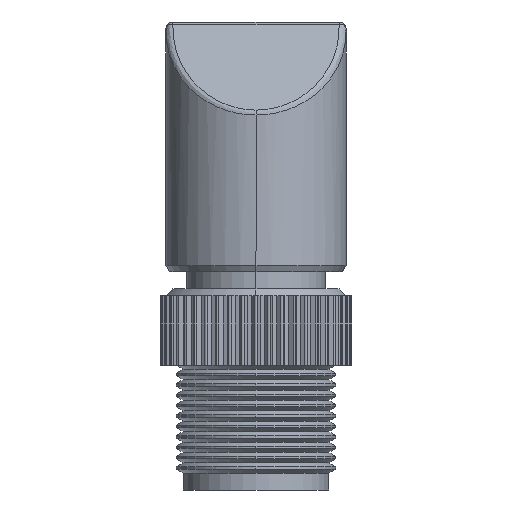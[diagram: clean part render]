
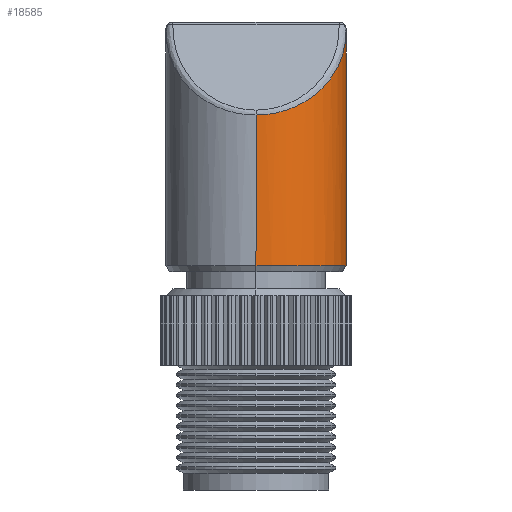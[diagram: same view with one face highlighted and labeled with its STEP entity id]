
A CAD part, left-side view. The second image highlights one B-rep face of the part: STEP entity #18585.
In plain terms, the highlighted cylindrical face has radius 6.604 mm (diameter 13.208 mm), a partial arc.
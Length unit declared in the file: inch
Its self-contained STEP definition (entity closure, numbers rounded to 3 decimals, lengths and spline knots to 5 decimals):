
#11323=CARTESIAN_POINT('',(0.,0.23684,-13.83));
#11324=CARTESIAN_POINT('',(0.00937,0.23684,-13.83));
#11325=CARTESIAN_POINT('',(0.02819,0.23576,
-13.83102));
#11326=CARTESIAN_POINT('',(0.05598,0.231,
-13.83557));
#11327=CARTESIAN_POINT('',(0.08389,0.22286,
-13.84332));
#11328=CARTESIAN_POINT('',(0.11201,0.21087,
-13.85468));
#11329=CARTESIAN_POINT('',(0.13991,0.19453,
-13.87006));
#11330=CARTESIAN_POINT('',(0.16596,0.17417,
-13.88901));
#11331=CARTESIAN_POINT('',(0.18814,0.1514,
-13.90981));
#11332=CARTESIAN_POINT('',(0.20487,0.12941,
-13.92934));
#11333=CARTESIAN_POINT('',(0.2175,0.10864,
-13.94707));
#11334=CARTESIAN_POINT('',(0.22696,0.08917,
-13.96279));
#11335=CARTESIAN_POINT('',(0.23406,0.07067,
-13.97651));
#11336=CARTESIAN_POINT('',(0.23925,0.05304,
-13.98801));
#11337=CARTESIAN_POINT('',(0.24283,0.03597,
-13.99698));
#11338=CARTESIAN_POINT('',(0.24493,0.01999,
-14.00274));
#11339=CARTESIAN_POINT('',(0.24581,0.00484,
-14.00528));
#11340=CARTESIAN_POINT('',(0.24564,-0.00949,
-14.00478));
#11341=CARTESIAN_POINT('',(0.24451,-0.02386,
-14.00155));
#11342=CARTESIAN_POINT('',(0.24226,-0.03905,
-13.9955));
#11343=CARTESIAN_POINT('',(0.23861,-0.05542,
-13.98654));
#11344=CARTESIAN_POINT('',(0.23347,-0.07233,
-13.97532));
#11345=CARTESIAN_POINT('',(0.22654,-0.09008,
-13.96206));
#11346=CARTESIAN_POINT('',(0.21731,-0.10892,
-13.94683));
#11347=CARTESIAN_POINT('',(0.20522,-0.12882,
-13.92984));
#11348=CARTESIAN_POINT('',(0.18935,-0.14993,
-13.91113));
#11349=CARTESIAN_POINT('',(0.16772,-0.17256,
-13.8905));
#11350=CARTESIAN_POINT('',(0.14197,-0.19311,
-13.87139));
#11351=CARTESIAN_POINT('',(0.114,-0.2099,
-13.8556));
#11352=CARTESIAN_POINT('',(0.085,-0.22249,
-13.84367));
#11353=CARTESIAN_POINT('',(0.06671,-0.22788,
-13.83854));
#11354=CARTESIAN_POINT('',(0.05786,-0.23,-13.83652));
#11377=CARTESIAN_POINT('',(0.,0.01828,
-14.35));
#11378=CARTESIAN_POINT('',(0.00926,0.01828,
-14.35));
#11379=CARTESIAN_POINT('',(0.02802,0.01737,
-14.34901));
#11380=CARTESIAN_POINT('',(0.05648,0.01307,
-14.34435));
#11381=CARTESIAN_POINT('',(0.08514,0.00562,
-14.33628));
#11382=CARTESIAN_POINT('',(0.11364,-0.00521,
-14.32455));
#11383=CARTESIAN_POINT('',(0.14154,-0.01964,
-14.30891));
#11384=CARTESIAN_POINT('',(0.16859,-0.03809,
-14.28893));
#11385=CARTESIAN_POINT('',(0.19405,-0.06082,
-14.2643));
#11386=CARTESIAN_POINT('',(0.21694,-0.08788,
-14.23498));
#11387=CARTESIAN_POINT('',(0.23616,-0.11913,
-14.20114));
#11388=CARTESIAN_POINT('',(0.25058,-0.15405,
-14.1633));
#11389=CARTESIAN_POINT('',(0.25904,-0.19152,
-14.12272));
#11390=CARTESIAN_POINT('',(0.26033,-0.21709,
-14.09501));
#11391=CARTESIAN_POINT('',(0.25985,-0.23,
-14.08103));
#11393=DIRECTION('',(0.,1.,0.));
#11394=VECTOR('',#11393,0.21584);
#11395=CARTESIAN_POINT('',(0.,0.23684,-13.83));
#11396=LINE('',#11395,#11394);
#11397=DIRECTION('',(0.,-1.,0.));
#11398=VECTOR('',#11397,0.4344);
#11399=CARTESIAN_POINT('',(0.,0.45268,-14.35));
#11400=LINE('',#11399,#11398);
#11490=CARTESIAN_POINT('',(0.,-0.23,-14.09));
#11491=DIRECTION('',(0.,1.,0.));
#11492=DIRECTION('',(0.223,0.,0.975));
#11493=AXIS2_PLACEMENT_3D('',#11490,#11491,#11492);
#11551=CARTESIAN_POINT('',(0.,0.45268,-14.09));
#11552=DIRECTION('',(0.,-1.,0.));
#11553=DIRECTION('',(0.,0.,-1.));
#11554=AXIS2_PLACEMENT_3D('',#11551,#11552,#11553);
#16119=VERTEX_POINT('',#11323);
#16120=VERTEX_POINT('',#11354);
#16123=VERTEX_POINT('',#11377);
#16124=VERTEX_POINT('',#11391);
#16125=CARTESIAN_POINT('',(0.,0.45268,-13.83));
#16126=VERTEX_POINT('',#16125);
#16127=CARTESIAN_POINT('',(0.,0.45268,-14.35));
#16128=VERTEX_POINT('',#16127);
#18567=CARTESIAN_POINT('',(0.,0.46633,-14.09));
#18568=DIRECTION('',(0.,-1.,0.));
#18569=DIRECTION('',(0.,0.,-1.));
#18570=AXIS2_PLACEMENT_3D('',#18567,#18568,#18569);
#18571=CYLINDRICAL_SURFACE('',#18570,0.26);
#18573=ORIENTED_EDGE('',*,*,#18572,.T.);
#18575=ORIENTED_EDGE('',*,*,#18574,.F.);
#18576=ORIENTED_EDGE('',*,*,#18547,.F.);
#18578=ORIENTED_EDGE('',*,*,#18577,.T.);
#18580=ORIENTED_EDGE('',*,*,#18579,.F.);
#18582=ORIENTED_EDGE('',*,*,#18581,.T.);
#18583=EDGE_LOOP('',(#18573,#18575,#18576,#18578,#18580,#18582));
#18584=FACE_OUTER_BOUND('',#18583,.F.);
#18585=ADVANCED_FACE('',(#18584),#18571,.T.);
#11355=B_SPLINE_CURVE_WITH_KNOTS('',3,(#11323,#11324,#11325,#11326,#11327,
#11328,#11329,#11330,#11331,#11332,#11333,#11334,#11335,#11336,#11337,#11338,
#11339,#11340,#11341,#11342,#11343,#11344,#11345,#11346,#11347,#11348,#11349,
#11350,#11351,#11352,#11353,#11354),.UNSPECIFIED.,.F.,.F.,(4,1,1,1,1,1,1,1,1,1,
1,1,1,1,1,1,1,1,1,1,1,1,1,1,1,1,1,1,1,4),(0.,0.03448,
0.06897,0.10345,0.13793,0.17241,
0.2069,0.24138,0.27586,0.31034,
0.34483,0.37931,0.41379,0.44828,
0.48276,0.51724,0.55172,0.58621,
0.62069,0.65517,0.68966,0.72414,
0.75862,0.7931,0.82759,0.86207,
0.89655,0.93103,0.96552,1.),.UNSPECIFIED.);
#11392=B_SPLINE_CURVE_WITH_KNOTS('',3,(#11377,#11378,#11379,#11380,#11381,
#11382,#11383,#11384,#11385,#11386,#11387,#11388,#11389,#11390,#11391),
.UNSPECIFIED.,.F.,.F.,(4,1,1,1,1,1,1,1,1,1,1,1,4),(0.,0.08333,
0.16667,0.25,0.33333,0.41667,0.5,
0.58333,0.66667,0.75,0.83333,0.91667,
1.),.UNSPECIFIED.);
#11494=CIRCLE('',#11493,0.26);
#11555=CIRCLE('',#11554,0.26);
#18547=EDGE_CURVE('',#16119,#16120,#11355,.T.);
#18572=EDGE_CURVE('',#16123,#16124,#11392,.T.);
#18574=EDGE_CURVE('',#16120,#16124,#11494,.T.);
#18577=EDGE_CURVE('',#16119,#16126,#11396,.T.);
#18579=EDGE_CURVE('',#16128,#16126,#11555,.T.);
#18581=EDGE_CURVE('',#16128,#16123,#11400,.T.);
